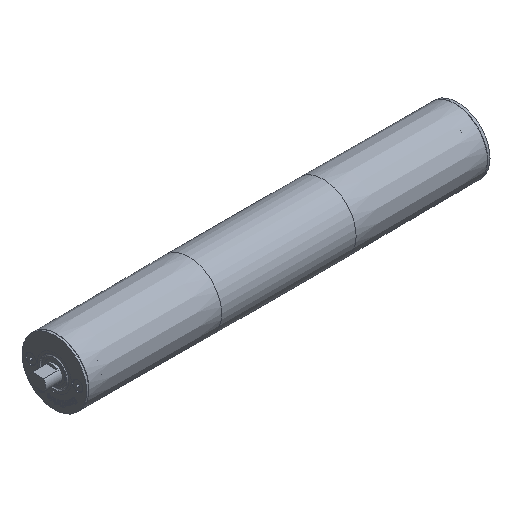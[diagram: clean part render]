
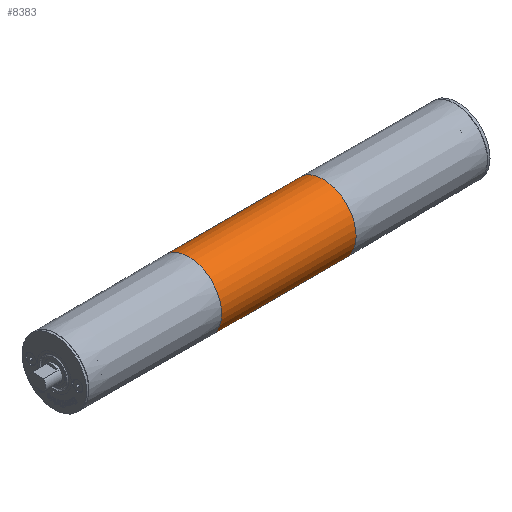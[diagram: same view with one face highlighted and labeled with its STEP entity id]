
A CAD part, isometric view. The second image highlights one B-rep face of the part: STEP entity #8383.
In plain terms, the highlighted cylindrical face has radius 40.75 mm (diameter 81.5 mm), a full revolution.
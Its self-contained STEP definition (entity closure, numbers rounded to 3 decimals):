
#16=CYLINDRICAL_SURFACE('',#8785,40.75);
#49=CIRCLE('',#8777,40.75);
#53=CIRCLE('',#8784,40.75);
#162=FACE_BOUND('',#1535,.T.);
#1027=FACE_OUTER_BOUND('',#1534,.T.);
#1534=EDGE_LOOP('',(#6588));
#1535=EDGE_LOOP('',(#6589));
#3792=VERTEX_POINT('',#12900);
#3796=VERTEX_POINT('',#12911);
#4811=EDGE_CURVE('',#3792,#3792,#49,.T.);
#4815=EDGE_CURVE('',#3796,#3796,#53,.T.);
#6588=ORIENTED_EDGE('',*,*,#4811,.T.);
#6589=ORIENTED_EDGE('',*,*,#4815,.F.);
#8383=ADVANCED_FACE('',(#1027,#162),#16,.T.);
#8777=AXIS2_PLACEMENT_3D('',#12901,#9604,#9605);
#8784=AXIS2_PLACEMENT_3D('',#12912,#9618,#9619);
#8785=AXIS2_PLACEMENT_3D('',#12913,#9620,#9621);
#9604=DIRECTION('center_axis',(1.,0.,0.));
#9605=DIRECTION('ref_axis',(0.,0.,-1.));
#9618=DIRECTION('center_axis',(1.,0.,0.));
#9619=DIRECTION('ref_axis',(0.,0.,-1.));
#9620=DIRECTION('center_axis',(1.,0.,0.));
#9621=DIRECTION('ref_axis',(0.,1.,0.));
#12900=CARTESIAN_POINT('',(-83.334,40.75,0.));
#12901=CARTESIAN_POINT('Origin',(-83.334,0.,
0.));
#12911=CARTESIAN_POINT('',(83.334,40.75,0.));
#12912=CARTESIAN_POINT('Origin',(83.334,0.,
0.));
#12913=CARTESIAN_POINT('Origin',(0.,0.,0.));
